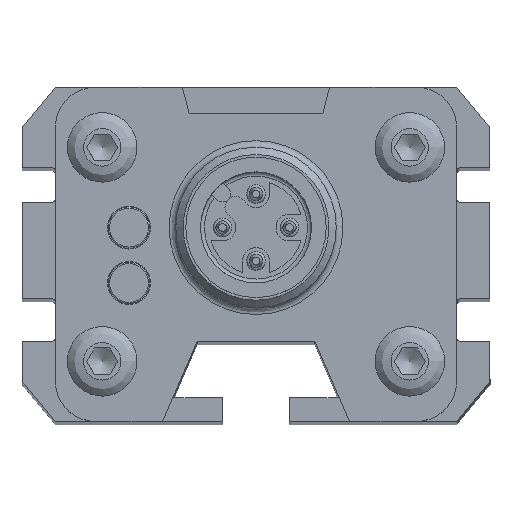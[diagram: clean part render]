
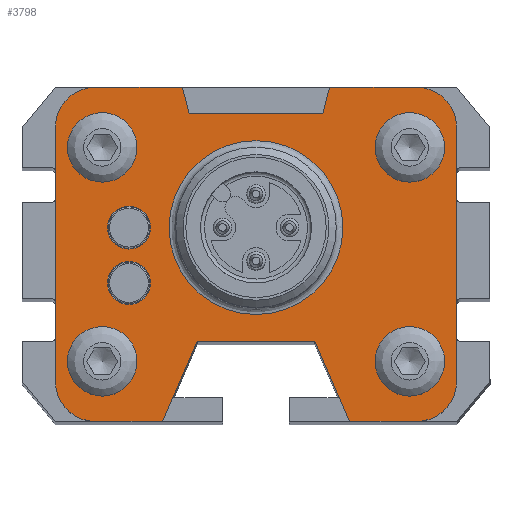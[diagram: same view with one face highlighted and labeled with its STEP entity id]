
A CAD part, top view. The second image highlights one B-rep face of the part: STEP entity #3798.
In plain terms, the highlighted planar face has unit normal (0, 0, 1).
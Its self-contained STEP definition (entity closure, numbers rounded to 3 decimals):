
#1233=CARTESIAN_POINT('',(-8.9,-10.,132.5));
#1234=VERTEX_POINT('',#1233);
#1235=CARTESIAN_POINT('',(-11.5,-10.,132.5));
#1236=DIRECTION('',(0.0,0.0,-1.0));
#1237=DIRECTION('',(-1.0,0.0,0.0));
#1238=AXIS2_PLACEMENT_3D('',#1235,#1236,#1237);
#1239=CIRCLE('',#1238,2.6);
#1240=EDGE_CURVE('',#1234,#1234,#1239,.T.);
#1588=CARTESIAN_POINT('',(-8.9,6.,132.5));
#1589=VERTEX_POINT('',#1588);
#1590=CARTESIAN_POINT('',(-11.5,6.,132.5));
#1591=DIRECTION('',(0.0,0.0,-1.0));
#1592=DIRECTION('',(-1.0,0.0,0.0));
#1593=AXIS2_PLACEMENT_3D('',#1590,#1591,#1592);
#1594=CIRCLE('',#1593,2.6);
#1595=EDGE_CURVE('',#1589,#1589,#1594,.T.);
#2228=CARTESIAN_POINT('',(-15.,-11.5,132.5));
#2229=VERTEX_POINT('',#2228);
#2236=CARTESIAN_POINT('',(-15.,7.5,132.5));
#2237=VERTEX_POINT('',#2236);
#2238=CARTESIAN_POINT('',(-15.,-11.5,132.5));
#2239=DIRECTION('',(0.0,1.0,0.0));
#2240=VECTOR('',#2239,19.);
#2241=LINE('',#2238,#2240);
#2242=EDGE_CURVE('',#2229,#2237,#2241,.T.);
#2577=CARTESIAN_POINT('',(-7.,-14.5,132.5));
#2578=VERTEX_POINT('',#2577);
#2585=CARTESIAN_POINT('',(-12.,-14.5,132.5));
#2586=VERTEX_POINT('',#2585);
#2587=CARTESIAN_POINT('',(-7.,-14.5,132.5));
#2588=DIRECTION('',(-1.0,0.0,0.0));
#2589=VECTOR('',#2588,5.);
#2590=LINE('',#2587,#2589);
#2591=EDGE_CURVE('',#2578,#2586,#2590,.T.);
#2685=CARTESIAN_POINT('',(-4.4,-8.5,132.5));
#2686=VERTEX_POINT('',#2685);
#2693=CARTESIAN_POINT('',(-4.4,-8.5,132.5));
#2694=DIRECTION('',(-0.398,-0.918,0.0));
#2695=VECTOR('',#2694,6.539);
#2696=LINE('',#2693,#2695);
#2697=EDGE_CURVE('',#2686,#2578,#2696,.T.);
#2718=CARTESIAN_POINT('',(4.4,-8.5,132.5));
#2719=VERTEX_POINT('',#2718);
#2726=CARTESIAN_POINT('',(4.4,-8.5,132.5));
#2727=DIRECTION('',(-1.0,0.0,0.0));
#2728=VECTOR('',#2727,8.8);
#2729=LINE('',#2726,#2728);
#2730=EDGE_CURVE('',#2719,#2686,#2729,.T.);
#2829=CARTESIAN_POINT('',(-12.,10.5,132.5));
#2830=VERTEX_POINT('',#2829);
#2837=CARTESIAN_POINT('',(-5.5,10.5,132.5));
#2838=VERTEX_POINT('',#2837);
#2839=CARTESIAN_POINT('',(-12.,10.5,132.5));
#2840=DIRECTION('',(1.0,0.0,0.0));
#2841=VECTOR('',#2840,6.5);
#2842=LINE('',#2839,#2841);
#2843=EDGE_CURVE('',#2830,#2838,#2842,.T.);
#2861=CARTESIAN_POINT('',(5.5,10.5,132.5));
#2862=VERTEX_POINT('',#2861);
#2869=CARTESIAN_POINT('',(12.,10.5,132.5));
#2870=VERTEX_POINT('',#2869);
#2871=CARTESIAN_POINT('',(5.5,10.5,132.5));
#2872=DIRECTION('',(1.0,0.0,0.0));
#2873=VECTOR('',#2872,6.5);
#2874=LINE('',#2871,#2873);
#2875=EDGE_CURVE('',#2862,#2870,#2874,.T.);
#2917=CARTESIAN_POINT('',(7.,-14.5,132.5));
#2918=VERTEX_POINT('',#2917);
#2925=CARTESIAN_POINT('',(7.,-14.5,132.5));
#2926=DIRECTION('',(-0.398,0.918,0.0));
#2927=VECTOR('',#2926,6.539);
#2928=LINE('',#2925,#2927);
#2929=EDGE_CURVE('',#2918,#2719,#2928,.T.);
#3025=CARTESIAN_POINT('',(12.,-14.5,132.5));
#3026=VERTEX_POINT('',#3025);
#3033=CARTESIAN_POINT('',(12.,-14.5,132.5));
#3034=DIRECTION('',(-1.0,0.0,0.0));
#3035=VECTOR('',#3034,5.0);
#3036=LINE('',#3033,#3035);
#3037=EDGE_CURVE('',#3026,#2918,#3036,.T.);
#3360=CARTESIAN_POINT('',(15.,7.5,132.5));
#3361=VERTEX_POINT('',#3360);
#3368=CARTESIAN_POINT('',(15.,-11.5,132.5));
#3369=VERTEX_POINT('',#3368);
#3370=CARTESIAN_POINT('',(15.,7.5,132.5));
#3371=DIRECTION('',(0.0,-1.0,0.0));
#3372=VECTOR('',#3371,19.);
#3373=LINE('',#3370,#3372);
#3374=EDGE_CURVE('',#3361,#3369,#3373,.T.);
#3671=CARTESIAN_POINT('',(7.879,-1.49,132.5));
#3672=DIRECTION('',(0.0,0.0,1.0));
#3673=DIRECTION('',(1.0,0.0,0.0));
#3674=AXIS2_PLACEMENT_3D('',#3671,#3672,#3673);
#3675=PLANE('',#3674);
#3676=CARTESIAN_POINT('',(5.,8.5,132.5));
#3677=VERTEX_POINT('',#3676);
#3678=CARTESIAN_POINT('',(5.,8.5,132.5));
#3679=DIRECTION('',(0.243,0.97,0.0));
#3680=VECTOR('',#3679,2.062);
#3681=LINE('',#3678,#3680);
#3682=EDGE_CURVE('',#3677,#2862,#3681,.T.);
#3683=ORIENTED_EDGE('',*,*,#3682,.F.);
#3684=CARTESIAN_POINT('',(-5.,8.5,132.5));
#3685=VERTEX_POINT('',#3684);
#3686=CARTESIAN_POINT('',(-5.,8.5,132.5));
#3687=DIRECTION('',(1.0,0.0,0.0));
#3688=VECTOR('',#3687,10.);
#3689=LINE('',#3686,#3688);
#3690=EDGE_CURVE('',#3685,#3677,#3689,.T.);
#3691=ORIENTED_EDGE('',*,*,#3690,.F.);
#3692=CARTESIAN_POINT('',(-5.5,10.5,132.5));
#3693=DIRECTION('',(0.243,-0.97,0.0));
#3694=VECTOR('',#3693,2.062);
#3695=LINE('',#3692,#3694);
#3696=EDGE_CURVE('',#2838,#3685,#3695,.T.);
#3697=ORIENTED_EDGE('',*,*,#3696,.F.);
#3698=ORIENTED_EDGE('',*,*,#2843,.F.);
#3699=CARTESIAN_POINT('',(-12.,7.5,132.5));
#3700=DIRECTION('',(0.0,0.0,-1.0));
#3701=DIRECTION('',(0.0,1.0,0.0));
#3702=AXIS2_PLACEMENT_3D('',#3699,#3700,#3701);
#3703=CIRCLE('',#3702,3.);
#3704=EDGE_CURVE('',#2237,#2830,#3703,.T.);
#3705=ORIENTED_EDGE('',*,*,#3704,.F.);
#3706=ORIENTED_EDGE('',*,*,#2242,.F.);
#3707=CARTESIAN_POINT('',(-12.,-11.5,132.5));
#3708=DIRECTION('',(0.0,0.0,-1.0));
#3709=DIRECTION('',(-1.0,0.0,0.0));
#3710=AXIS2_PLACEMENT_3D('',#3707,#3708,#3709);
#3711=CIRCLE('',#3710,3.);
#3712=EDGE_CURVE('',#2586,#2229,#3711,.T.);
#3713=ORIENTED_EDGE('',*,*,#3712,.F.);
#3714=ORIENTED_EDGE('',*,*,#2591,.F.);
#3715=ORIENTED_EDGE('',*,*,#2697,.F.);
#3716=ORIENTED_EDGE('',*,*,#2730,.F.);
#3717=ORIENTED_EDGE('',*,*,#2929,.F.);
#3718=ORIENTED_EDGE('',*,*,#3037,.F.);
#3719=CARTESIAN_POINT('',(12.,-11.5,132.5));
#3720=DIRECTION('',(0.0,0.0,-1.0));
#3721=DIRECTION('',(0.0,-1.0,0.0));
#3722=AXIS2_PLACEMENT_3D('',#3719,#3720,#3721);
#3723=CIRCLE('',#3722,3.);
#3724=EDGE_CURVE('',#3369,#3026,#3723,.T.);
#3725=ORIENTED_EDGE('',*,*,#3724,.F.);
#3726=ORIENTED_EDGE('',*,*,#3374,.F.);
#3727=CARTESIAN_POINT('',(12.,7.5,132.5));
#3728=DIRECTION('',(0.0,0.0,-1.0));
#3729=DIRECTION('',(1.0,0.0,0.0));
#3730=AXIS2_PLACEMENT_3D('',#3727,#3728,#3729);
#3731=CIRCLE('',#3730,3.);
#3732=EDGE_CURVE('',#2870,#3361,#3731,.T.);
#3733=ORIENTED_EDGE('',*,*,#3732,.F.);
#3734=ORIENTED_EDGE('',*,*,#2875,.F.);
#3735=EDGE_LOOP('',(#3683,#3691,#3697,#3698,#3705,#3706,#3713,#3714,#3715,#3716,#3717,#3718,#3725,#3726,#3733,#3734));
#3736=FACE_OUTER_BOUND('',#3735,.T.);
#3737=CARTESIAN_POINT('',(6.5,0.,132.5));
#3738=VERTEX_POINT('',#3737);
#3739=CARTESIAN_POINT('',(0.,0.,132.5));
#3740=DIRECTION('',(0.0,0.0,-1.0));
#3741=DIRECTION('',(-1.0,0.0,0.0));
#3742=AXIS2_PLACEMENT_3D('',#3739,#3740,#3741);
#3743=CIRCLE('',#3742,6.5);
#3744=EDGE_CURVE('',#3738,#3738,#3743,.T.);
#3745=ORIENTED_EDGE('',*,*,#3744,.T.);
#3746=EDGE_LOOP('',(#3745));
#3747=FACE_BOUND('',#3746,.T.);
#3748=ORIENTED_EDGE('',*,*,#1240,.T.);
#3749=EDGE_LOOP('',(#3748));
#3750=FACE_BOUND('',#3749,.T.);
#3751=CARTESIAN_POINT('',(14.1,-10.,132.5));
#3752=VERTEX_POINT('',#3751);
#3753=CARTESIAN_POINT('',(11.5,-10.,132.5));
#3754=DIRECTION('',(0.0,0.0,-1.0));
#3755=DIRECTION('',(-1.0,0.0,0.0));
#3756=AXIS2_PLACEMENT_3D('',#3753,#3754,#3755);
#3757=CIRCLE('',#3756,2.6);
#3758=EDGE_CURVE('',#3752,#3752,#3757,.T.);
#3759=ORIENTED_EDGE('',*,*,#3758,.T.);
#3760=EDGE_LOOP('',(#3759));
#3761=FACE_BOUND('',#3760,.T.);
#3762=CARTESIAN_POINT('',(14.1,6.,132.5));
#3763=VERTEX_POINT('',#3762);
#3764=CARTESIAN_POINT('',(11.5,6.,132.5));
#3765=DIRECTION('',(0.0,0.0,-1.0));
#3766=DIRECTION('',(-1.0,0.0,0.0));
#3767=AXIS2_PLACEMENT_3D('',#3764,#3765,#3766);
#3768=CIRCLE('',#3767,2.6);
#3769=EDGE_CURVE('',#3763,#3763,#3768,.T.);
#3770=ORIENTED_EDGE('',*,*,#3769,.T.);
#3771=EDGE_LOOP('',(#3770));
#3772=FACE_BOUND('',#3771,.T.);
#3773=ORIENTED_EDGE('',*,*,#1595,.T.);
#3774=EDGE_LOOP('',(#3773));
#3775=FACE_BOUND('',#3774,.T.);
#3776=CARTESIAN_POINT('',(-7.899,-4.139,132.5));
#3777=VERTEX_POINT('',#3776);
#3778=CARTESIAN_POINT('',(-9.499,-4.139,132.5));
#3779=DIRECTION('',(0.0,0.0,-1.0));
#3780=DIRECTION('',(-1.0,0.0,0.0));
#3781=AXIS2_PLACEMENT_3D('',#3778,#3779,#3780);
#3782=CIRCLE('',#3781,1.6);
#3783=EDGE_CURVE('',#3777,#3777,#3782,.T.);
#3784=ORIENTED_EDGE('',*,*,#3783,.T.);
#3785=EDGE_LOOP('',(#3784));
#3786=FACE_BOUND('',#3785,.T.);
#3787=CARTESIAN_POINT('',(-7.899,0.,132.5));
#3788=VERTEX_POINT('',#3787);
#3789=CARTESIAN_POINT('',(-9.499,0.,132.5));
#3790=DIRECTION('',(0.0,0.0,-1.0));
#3791=DIRECTION('',(-1.0,0.0,0.0));
#3792=AXIS2_PLACEMENT_3D('',#3789,#3790,#3791);
#3793=CIRCLE('',#3792,1.6);
#3794=EDGE_CURVE('',#3788,#3788,#3793,.T.);
#3795=ORIENTED_EDGE('',*,*,#3794,.T.);
#3796=EDGE_LOOP('',(#3795));
#3797=FACE_BOUND('',#3796,.T.);
#3798=ADVANCED_FACE('',(#3736,#3747,#3750,#3761,#3772,#3775,#3786,#3797),#3675,.T.);
